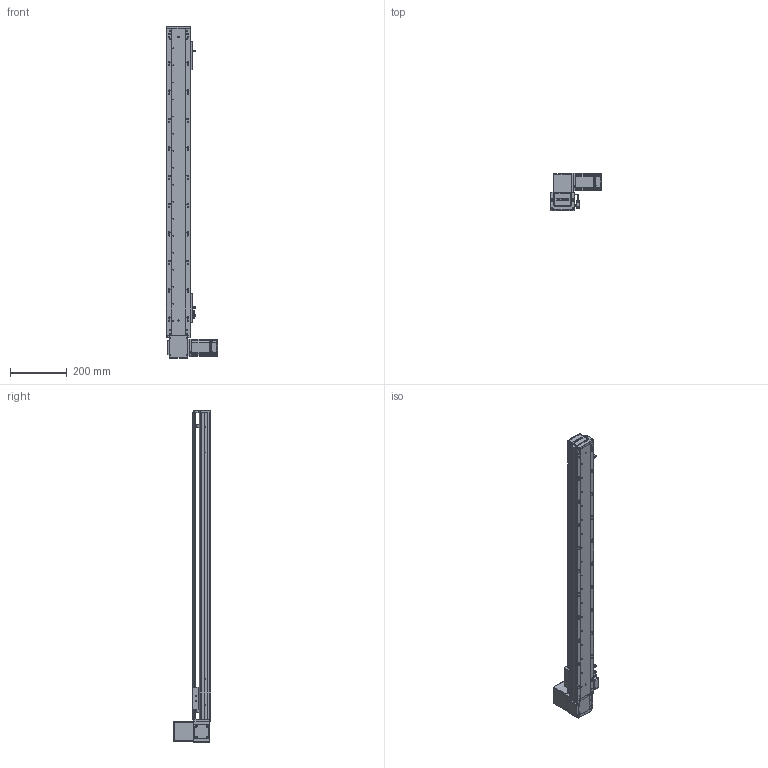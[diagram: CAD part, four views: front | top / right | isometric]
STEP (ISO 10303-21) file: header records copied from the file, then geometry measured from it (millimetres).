
FILE_DESCRIPTION (( 'STEP AP203' ), '1' );
FILE_NAME ('RY80-T-300-UR.SLDASM_900.step', '2021-03-01T02:26:33', ( '盈信电脑' ), ( '东莞市道滘镇水果街19号' ), 'SwSTEP 2.0', 'SolidWorks 2012', '' );
FILE_SCHEMA (( 'CONFIG_CONTROL_DESIGN' ));
Products named in the file (20): RY80-T-300-UR.SLDASM_900; RY80-T萇儂假蚾啣; RY80-T-M4蹟翐2; RY80-T肮祭謫奻殏俋欶; 1; RY80-T翋肮祭謫裔啣; RY100-T粣創揤踡裔; 滅袉蝶18-10; RY80-T-上下折同步轮盖板; RY80-T粣創揤踡輸; RY80-T-翋肮祭謫釱; RY80-T肮祭湍揤輸1; RY80-T肮祭湍揤輸2; 672嫖萇羲壽假蚾釱; RY80俋离覜茼え; 覜茼ん672; RY80-T肮祭謫臏賑輸; RY80-T-300-UR倰第菁釱_900; RY80-T綴裔啣; RY80-T-300-UR倰第奻裔啣_900
Assembly tree (23 placements, depth 2):
  RY80-T-300-UR.SLDASM_900
    RY80-T-300-UR倰第菁釱_900
    RY80-T肮祭謫臏賑輸
    RY80-T-300-UR倰第奻裔啣_900
    RY80-T綴裔啣
    672嫖萇羲壽假蚾釱  x2
    覜茼ん672  x3
    RY80俋离覜茼え
    RY80-T-翋肮祭謫釱
    RY80-T肮祭湍揤輸1
    RY80-T肮祭湍揤輸2
    RY80-T粣創揤踡輸
    滅袉蝶18-10  x2
    RY100-T粣創揤踡裔
    RY80-T翋肮祭謫裔啣
    RY80-T-上下折同步轮盖板
    1
    RY80-T肮祭謫奻殏俋欶
    RY80-T-M4蹟翐2
    RY80-T萇儂假蚾啣
Bounding box: 180 x 130.5 x 1170 mm (x, y, z)
Volume: 2055974.5 mm3; surface area: 859441.9 mm2
Topology: 23 solids, 23 shells, 2629 faces, 7285 edges, 4736 vertices
Faces by surface type: plane 1371, cylinder 1058, cone 144, bspline 56
Entity records: 85506 total; most frequent: CARTESIAN_POINT 21628, ORIENTED_EDGE 13214, DIRECTION 12268, EDGE_CURVE 6607, VERTEX_POINT 4340, AXIS2_PLACEMENT_3D 4168, VECTOR 3932, LINE 3932
